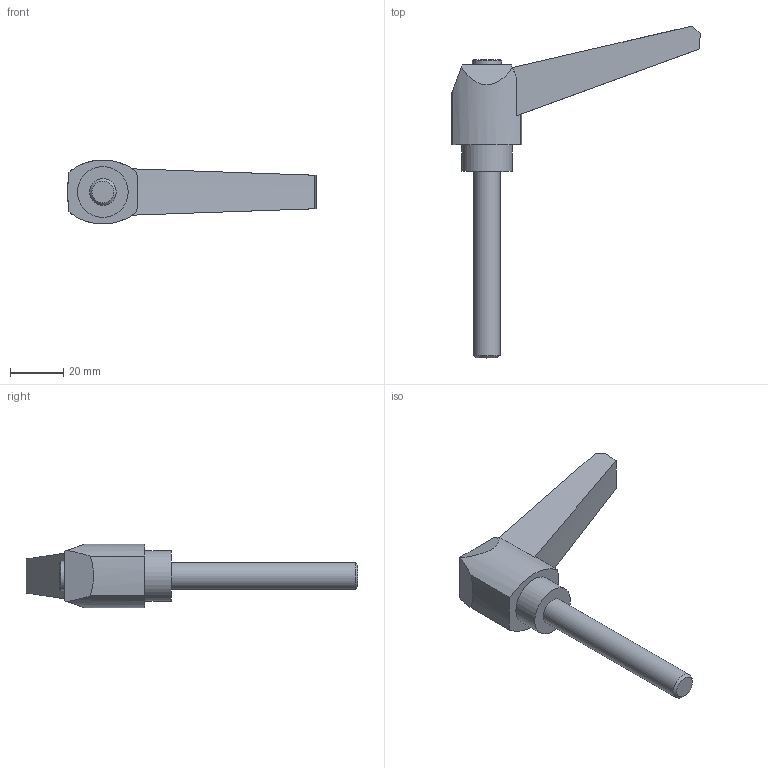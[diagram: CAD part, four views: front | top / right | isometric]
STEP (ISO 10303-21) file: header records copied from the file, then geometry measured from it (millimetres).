
FILE_DESCRIPTION( ( 'STEP AP203' ), '1' );
FILE_NAME( 'C:/Temp/Ganter_Step_05_03_2020/data/2_1/gn_500/gn_500_ms/Adjustable hand lever GN 500-80-M10-70-SW.stp', '2020-03-05T11:26:37', ( 'License CC BY-ND 4.0' ), ( 'CADENAS' ), ' ', 'PARTsolutions', ' ' );
FILE_SCHEMA( ( 'CONFIG_CONTROL_DESIGN' ) );
Length unit declared in the file: millimetre
Products named in the file (1): _Adjustable hand lever GN 500-80-M10-70-SW
Bounding box: 93.3 x 124.58 x 24 mm (x, y, z)
Volume: 38238.5 mm3; surface area: 10081 mm2
Topology: 1 solids, 1 shells, 24 faces, 56 edges, 37 vertices
Faces by surface type: plane 11, cylinder 7, cone 6
Full cylindrical faces by diameter (mm): 10 x1, 11 x1, 19 x1
Entity records: 709 total; most frequent: CARTESIAN_POINT 124, DIRECTION 118, ORIENTED_EDGE 100, EDGE_CURVE 50, AXIS2_PLACEMENT_3D 47, VERTEX_POINT 36, EDGE_LOOP 32, FACE_OUTER_BOUND 27
